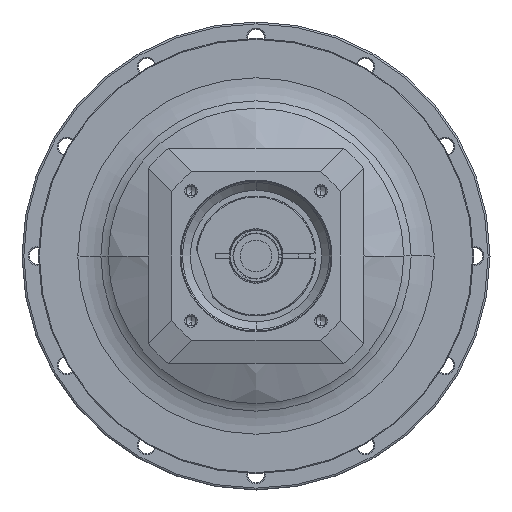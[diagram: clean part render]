
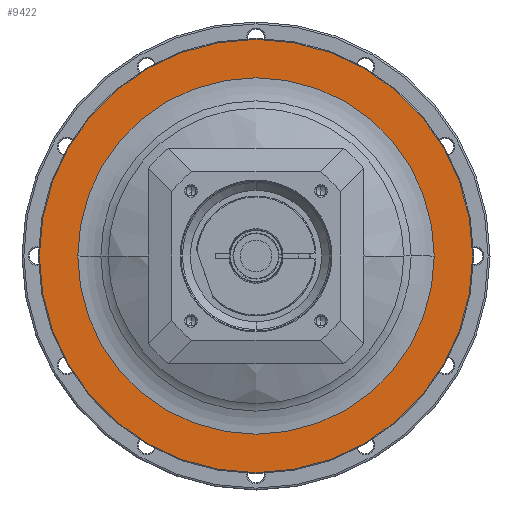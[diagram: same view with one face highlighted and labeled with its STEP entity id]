
A CAD part, left-side view. The second image highlights one B-rep face of the part: STEP entity #9422.
In plain terms, the highlighted planar face has unit normal (-1, 0, 0) as drawn and (1, 0, 0) by its records, which use the part's own axes.
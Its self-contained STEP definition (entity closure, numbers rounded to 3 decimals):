
#8381=CARTESIAN_POINT('',(-20.5,0.,0.));
#8382=DIRECTION('',(-1.,0.,0.));
#8383=DIRECTION('',(0.,-1.,0.));
#8384=AXIS2_PLACEMENT_3D('',#8381,#8382,#8383);
#8386=CARTESIAN_POINT('',(-20.5,0.,0.));
#8387=DIRECTION('',(-1.,0.,0.));
#8388=DIRECTION('',(0.,1.,0.));
#8389=AXIS2_PLACEMENT_3D('',#8386,#8387,#8388);
#8396=CARTESIAN_POINT('',(-20.5,0.,0.));
#8397=DIRECTION('',(1.,0.,0.));
#8398=DIRECTION('',(0.,1.,0.));
#8399=AXIS2_PLACEMENT_3D('',#8396,#8397,#8398);
#8451=CARTESIAN_POINT('',(-20.5,0.,0.));
#8452=DIRECTION('',(-1.,0.,0.));
#8453=DIRECTION('',(0.,1.,0.));
#8454=AXIS2_PLACEMENT_3D('',#8451,#8452,#8453);
#8689=CARTESIAN_POINT('',(-20.5,-115.5,0.));
#8690=CARTESIAN_POINT('',(-20.5,115.5,0.));
#8691=VERTEX_POINT('',#8689);
#8692=VERTEX_POINT('',#8690);
#8709=CARTESIAN_POINT('',(-20.5,95.,0.));
#8710=CARTESIAN_POINT('',(-20.5,-95.,0.));
#8711=VERTEX_POINT('',#8709);
#8712=VERTEX_POINT('',#8710);
#9407=CARTESIAN_POINT('',(-20.5,0.,0.));
#9408=DIRECTION('',(1.,0.,0.));
#9409=DIRECTION('',(0.,-1.,0.));
#9410=AXIS2_PLACEMENT_3D('',#9407,#9408,#9409);
#9411=PLANE('',#9410);
#9412=ORIENTED_EDGE('',*,*,#9363,.T.);
#9413=ORIENTED_EDGE('',*,*,#9348,.T.);
#9414=EDGE_LOOP('',(#9412,#9413));
#9415=FACE_OUTER_BOUND('',#9414,.F.);
#9417=ORIENTED_EDGE('',*,*,#9416,.T.);
#9419=ORIENTED_EDGE('',*,*,#9418,.F.);
#9420=EDGE_LOOP('',(#9417,#9419));
#9421=FACE_BOUND('',#9420,.F.);
#9422=ADVANCED_FACE('',(#9415,#9421),#9411,.T.);
#8385=CIRCLE('',#8384,115.5);
#8390=CIRCLE('',#8389,115.5);
#8400=CIRCLE('',#8399,95.);
#8455=CIRCLE('',#8454,95.);
#9348=EDGE_CURVE('',#8692,#8691,#8390,.T.);
#9363=EDGE_CURVE('',#8691,#8692,#8385,.T.);
#9416=EDGE_CURVE('',#8711,#8712,#8400,.T.);
#9418=EDGE_CURVE('',#8711,#8712,#8455,.T.);
